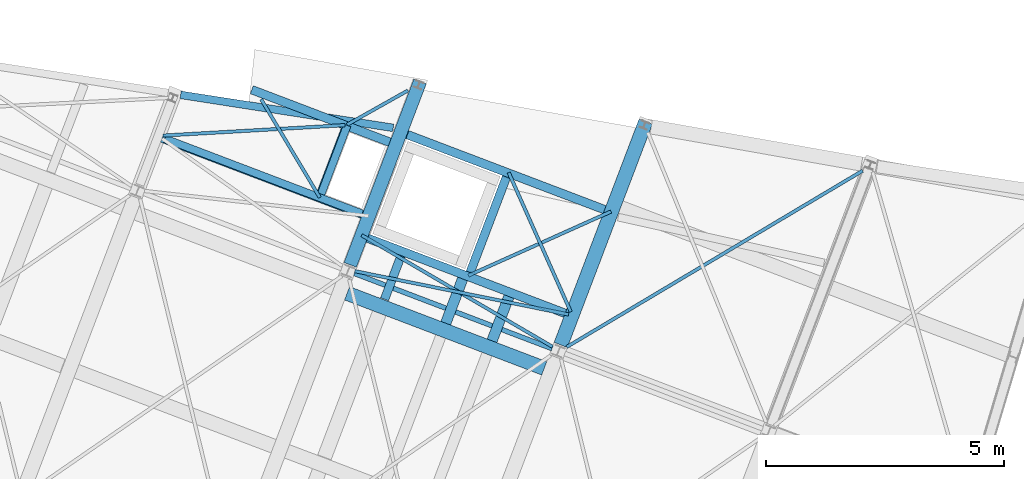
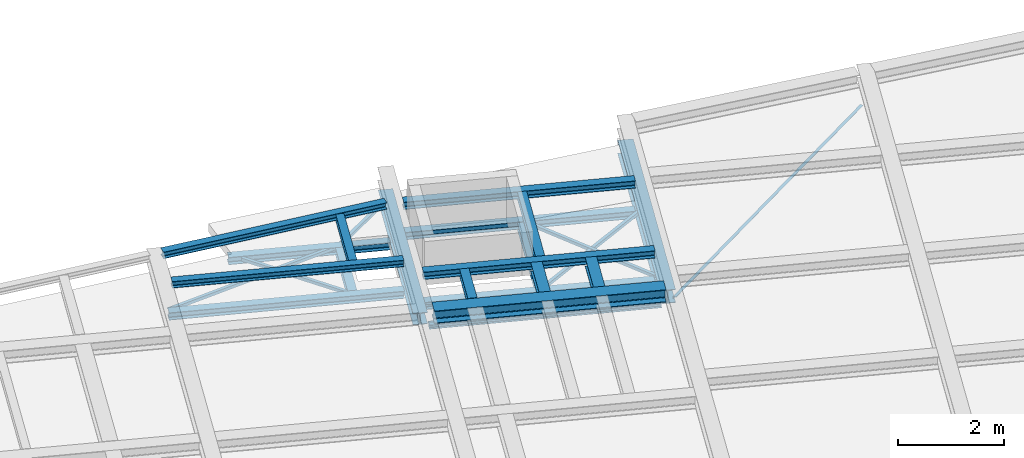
# One storey, part 17 of 21: 27 beams.
"""IFC2X3 building model written with IfcOpenShell, lengths in millimetres."""

from ifc_helpers import new_model, entity, si_unit, converted_unit, derived_unit, direction, frame, frame_2d, origin, place, context, subcontext, project, spatial, polyline, circle_curve, parameter, trimmed, segment, composite_curve, i_section, outline, extrude, material, type_object, element, save


model = new_model("IFC2X3")

# Units and contexts
model_context = context("Model", 3, precision=0.01, world=origin(), true_north=direction((6.123233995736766e-17, 1.0)))
body_context = subcontext(model_context, "Body", "Model", "MODEL_VIEW")
ifc_project = project(units=[si_unit("LENGTHUNIT", "METRE", prefix="MILLI"), converted_unit("PLANEANGLEUNIT", "DEGREE", entity("IfcPlaneAngleMeasure", 0.017453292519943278), si_unit("PLANEANGLEUNIT", "RADIAN"), dimensions=[0, 0, 0, 0, 0, 0, 0]), si_unit("AREAUNIT", "SQUARE_METRE"), derived_unit("THERMALTRANSMITTANCEUNIT", [(si_unit("MASSUNIT", "GRAM", prefix="KILO"), 1), (si_unit("THERMODYNAMICTEMPERATUREUNIT", "KELVIN"), -1), (si_unit("TIMEUNIT", "SECOND"), -3)])], contexts=[model_context])

# Site, building, storey
site_placement = place(None, frame((-72937.88054949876, 11621.45624098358, 0.0), z_axis=(0.0, 0.0, 1.0), x_axis=(0.9346418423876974, -0.35559053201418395, 0.0)))
site = spatial("IfcSite", under=ifc_project, at=site_placement, Name="Default", CompositionType="ELEMENT")
building_placement = place(site_placement, origin())
building = spatial("IfcBuilding", under=site, at=building_placement, CompositionType="ELEMENT")
storey_placement = place(building_placement, frame((0.0, 0.0, 4250.0)))
storey = spatial("IfcBuildingStorey", under=building, at=storey_placement, Name="01 eerste verdieping", CompositionType="ELEMENT", Elevation=4250.0)

# Beams
ifc_material_1 = material(Name="metaal_staal_generiek")
beam_type_1 = type_object("IfcBeamType", Name="DIE10", PredefinedType="BEAM")
beam_1_placement = place(storey_placement, frame((52840.0, 28760.0, -80.0)))
element("IfcBeam", 1, at=beam_1_placement, inside=storey, type_object=beam_type_1, material=ifc_material_1, Name="28.11_Stalen balk HEA", ObjectType="stalen balk HEA profiel", context=body_context, shape_type="SweptSolid", body=[
    extrude(i_section(OverallWidth=99.99999999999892, OverallDepth=95.99999999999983, WebThickness=4.999999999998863, FlangeThickness=8.000000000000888, FilletRadius=12.000000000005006, at=frame_2d((5.400124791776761e-13, -6.497913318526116e-12), x_axis=(0.0, 1.0))), frame((142.70000000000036, 0.0, -218.0), z_axis=(1.0, 0.0, 0.0), x_axis=(0.0, 0.0, -1.0)), (0.0, 0.0, 1.0), 4444.600000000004),
])
beam_type_2 = type_object("IfcBeamType", Name="DIE28", PredefinedType="BEAM")
beam_2_placement = place(storey_placement, frame((52840.0, 28760.0, -80.0), z_axis=(0.0, 0.0, 1.0), x_axis=(0.0, 1.0, 0.0)))
element("IfcBeam", 2, at=beam_2_placement, inside=storey, type_object=beam_type_2, material=ifc_material_1, Name="28.11_Stalen balk HEA", ObjectType="stalen balk HEA profiel", context=body_context, shape_type="SweptSolid", body=[
    extrude(i_section(OverallWidth=279.999999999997, OverallDepth=269.9999999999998, WebThickness=7.999999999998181, FlangeThickness=13.000000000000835, FilletRadius=24.000000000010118, at=frame_2d((2.7000623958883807e-13, 0.0), x_axis=(0.0, 1.0))), frame((137.72283929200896, 0.0, -135.0), z_axis=(1.0, 0.0, 0.0), x_axis=(0.0, 0.0, -1.0)), (0.0, 0.0, 1.0), 4119.099999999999),
])
beam_type_3 = type_object("IfcBeamType", Name="DIE32", PredefinedType="BEAM")
beam_3_placement = place(storey_placement, frame((57570.0, 28760.0, -80.0), z_axis=(0.0, 0.0, 1.0), x_axis=(0.0, 1.0, 0.0)))
element("IfcBeam", 3, at=beam_3_placement, inside=storey, type_object=beam_type_3, material=ifc_material_1, Name="28.11_Stalen balk HEA", ObjectType="stalen balk HEA profiel", context=body_context, shape_type="SweptSolid", body=[
    extrude(i_section(OverallWidth=300.0000000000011, OverallDepth=309.9999999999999, WebThickness=8.999999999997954, FlangeThickness=15.500000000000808, FilletRadius=26.999999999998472, at=frame_2d((0.0, 0.0), x_axis=(0.0, 1.0))), frame((137.73060540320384, 0.0, -155.0), z_axis=(1.0, 0.0, 0.0), x_axis=(0.0, 0.0, -1.0)), (0.0, 0.0, 1.0), 5014.2000000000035),
])
beam_type_4 = type_object("IfcBeamType", Name="L70x7", PredefinedType="NOTDEFINED")
beam_4_placement = place(storey_placement, frame((57570.0, 28760.0, -270.0), z_axis=(0.0, 0.0, 1.0), x_axis=(0.621005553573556, 0.783806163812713, 0.0)))
element("IfcBeam", 4, at=beam_4_placement, inside=storey, type_object=beam_type_4, material=ifc_material_1, Name="28.11_SF_WVB-L-Gelijkzijdig:L70x7", ObjectType="28.11_SF_WVB-L-Gelijkzijdig:L70x7", context=body_context, shape_type="SweptSolid", body=[
    extrude(outline(composite_curve([segment(polyline([(-26.444444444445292, -43.55555555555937), (-23.944444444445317, -43.55555555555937)]), True, "CONTINUOUS"), segment(trimmed(circle_curve(frame_2d((-23.944444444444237, -39.055555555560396), x_axis=(0.0, -1.0)), 4.499999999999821), [parameter(0.0)], [parameter(90.00000000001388)], True, "PARAMETER"), True, "CONTINUOUS"), segment(polyline([(-19.444444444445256, -39.055555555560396), (-19.444444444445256, 10.444444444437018)]), True, "CONTINUOUS"), segment(trimmed(circle_curve(frame_2d((-10.444444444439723, 10.444444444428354), x_axis=(-1.0, 0.0)), 9.000000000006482), [parameter(270.0000000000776)], [parameter(0.0)], True, "PARAMETER"), False, "CONTINUOUS"), segment(polyline([(-10.444444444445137, 19.444444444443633), (39.05555555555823, 19.444444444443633)]), True, "CONTINUOUS"), segment(trimmed(circle_curve(frame_2d((39.05555555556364, 23.944444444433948), x_axis=(0.0, -1.0)), 4.499999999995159), [parameter(0.0)], [parameter(90.00000000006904)], True, "PARAMETER"), True, "CONTINUOUS"), segment(polyline([(43.55555555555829, 23.944444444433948), (43.55555555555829, 26.44444444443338)]), True, "CONTINUOUS"), segment(polyline([(43.55555555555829, 26.44444444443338), (-26.444444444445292, 26.44444444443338)]), True, "CONTINUOUS"), segment(polyline([(-26.444444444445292, 26.444444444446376), (-26.444444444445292, -43.55555555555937)]), True, "CONTINUOUS")], self_intersect=False)), frame((191.48953318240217, -6.744444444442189, -6.7444444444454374), z_axis=(1.0, 0.0, 0.0), x_axis=(0.0, 0.0, -1.0)), (0.0, 0.0, 1.0), 7234.000000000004),
])
beam_5_placement = place(storey_placement, frame((52840.0, 32931.269201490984, -270.0), z_axis=(0.0, 0.0, 1.0), x_axis=(-0.6403917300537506, -0.7680484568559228, 0.0)))
element("IfcBeam", 5, at=beam_5_placement, inside=storey, type_object=beam_type_4, material=ifc_material_1, Name="28.11_SF_WVB-L-Gelijkzijdig:L70x7", ObjectType="28.11_SF_WVB-L-Gelijkzijdig:L70x7", context=body_context, shape_type="SweptSolid", body=[
    extrude(outline(composite_curve([segment(polyline([(-26.444444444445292, -43.555555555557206), (-23.944444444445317, -43.555555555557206)]), True, "CONTINUOUS"), segment(trimmed(circle_curve(frame_2d((-23.94444444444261, -39.05555555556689), x_axis=(0.0, -1.0)), 4.4999999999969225), [parameter(0.0)], [parameter(90.00000000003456)], True, "PARAMETER"), True, "CONTINUOUS"), segment(polyline([(-19.444444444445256, -39.05555555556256), (-19.444444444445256, 10.444444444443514)]), True, "CONTINUOUS"), segment(trimmed(circle_curve(frame_2d((-10.444444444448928, 10.444444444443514), x_axis=(-1.0, 0.0)), 8.99999999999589), [parameter(269.9999999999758)], [parameter(0.0)], True, "PARAMETER"), False, "CONTINUOUS"), segment(polyline([(-10.444444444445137, 19.444444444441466), (39.05555555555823, 19.444444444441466)]), True, "CONTINUOUS"), segment(trimmed(circle_curve(frame_2d((39.055555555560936, 23.944444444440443), x_axis=(0.0, -1.0)), 4.499999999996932), [parameter(0.0)], [parameter(90.00000000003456)], True, "PARAMETER"), True, "CONTINUOUS"), segment(polyline([(43.55555555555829, 23.944444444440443), (43.55555555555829, 26.44444444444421)]), True, "CONTINUOUS"), segment(polyline([(43.55555555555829, 26.44444444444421), (-26.444444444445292, 26.44444444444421)]), True, "CONTINUOUS"), segment(polyline([(-26.444444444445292, 26.44444444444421), (-26.444444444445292, -43.555555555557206)]), True, "CONTINUOUS")], self_intersect=False)), frame((247.45703811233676, -6.744444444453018, -6.7444444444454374), z_axis=(1.0, 0.0, 0.0), x_axis=(0.0, 0.0, -1.0)), (0.0, 0.0, 1.0), 1463.700000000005),
])
beam_6_placement = place(storey_placement, frame((57569.97198205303, 31879.96700318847, -270.0), z_axis=(0.0, 0.0, 1.0), x_axis=(-0.7071067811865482, -0.7071067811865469, 0.0)))
element("IfcBeam", 6, at=beam_6_placement, inside=storey, type_object=beam_type_4, material=ifc_material_1, Name="28.11_SF_WVB-L-Gelijkzijdig:L70x7", ObjectType="28.11_SF_WVB-L-Gelijkzijdig:L70x7", context=body_context, shape_type="SweptSolid", body=[
    extrude(outline(composite_curve([segment(polyline([(-26.444444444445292, -43.55555555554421), (-23.944444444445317, -43.55555555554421)]), True, "CONTINUOUS"), segment(trimmed(circle_curve(frame_2d((-23.94444444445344, -39.05555555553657), x_axis=(0.0, -1.0)), 4.5000000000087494), [parameter(0.0)], [parameter(89.99999999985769)], True, "PARAMETER"), True, "CONTINUOUS"), segment(polyline([(-19.444444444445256, -39.0555555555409), (-19.444444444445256, 10.444444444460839)]), True, "CONTINUOUS"), segment(trimmed(circle_curve(frame_2d((-10.444444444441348, 10.444444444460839), x_axis=(-1.0, 0.0)), 9.000000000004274), [parameter(270.00000000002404)], [parameter(0.0)], True, "PARAMETER"), False, "CONTINUOUS"), segment(polyline([(-10.444444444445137, 19.444444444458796), (39.05555555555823, 19.44444444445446)]), True, "CONTINUOUS"), segment(trimmed(circle_curve(frame_2d((39.05555555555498, 23.94444444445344), x_axis=(0.0, -1.0)), 4.500000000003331), [parameter(0.0)], [parameter(89.99999999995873)], True, "PARAMETER"), True, "CONTINUOUS"), segment(polyline([(43.55555555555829, 23.94444444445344), (43.55555555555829, 26.4444444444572)]), True, "CONTINUOUS"), segment(polyline([(43.55555555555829, 26.4444444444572), (-26.444444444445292, 26.4444444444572)]), True, "CONTINUOUS"), segment(polyline([(-26.444444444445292, 26.4444444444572), (-26.444444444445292, -43.55555555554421)]), True, "CONTINUOUS")], self_intersect=False)), frame((0.01792067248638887, -6.744444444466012, -6.7444444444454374), z_axis=(1.0, 0.0, 0.0), x_axis=(0.0, 0.0, -1.0)), (0.0, 0.0, 1.0), 3280.9000000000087),
])
beam_7_placement = place(storey_placement, frame((57569.99949449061, 29550.0, -270.0), z_axis=(0.0, 0.0, 1.0), x_axis=(-0.7054501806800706, 0.708759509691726, 0.0)))
element("IfcBeam", 7, at=beam_7_placement, inside=storey, type_object=beam_type_4, material=ifc_material_1, Name="28.11_SF_WVB-L-Gelijkzijdig:L70x7", ObjectType="28.11_SF_WVB-L-Gelijkzijdig:L70x7", context=body_context, shape_type="SweptSolid", body=[
    extrude(outline(composite_curve([segment(polyline([(-26.444444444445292, -43.555555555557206), (-23.944444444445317, -43.555555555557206)]), True, "CONTINUOUS"), segment(trimmed(circle_curve(frame_2d((-23.944444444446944, -39.05555555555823), x_axis=(0.0, -1.0)), 4.500000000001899), [parameter(0.0)], [parameter(89.99999999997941)], True, "PARAMETER"), True, "CONTINUOUS"), segment(polyline([(-19.444444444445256, -39.05555555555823), (-19.444444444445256, 10.444444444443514)]), True, "CONTINUOUS"), segment(trimmed(circle_curve(frame_2d((-10.444444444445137, 10.444444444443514), x_axis=(-1.0, 0.0)), 9.00000000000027), [parameter(269.9999999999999)], [parameter(0.0)], True, "PARAMETER"), False, "CONTINUOUS"), segment(polyline([(-10.444444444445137, 19.444444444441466), (39.05555555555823, 19.444444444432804)]), True, "CONTINUOUS"), segment(trimmed(circle_curve(frame_2d((39.05555555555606, 23.94444444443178), x_axis=(0.0, -1.0)), 4.500000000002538), [parameter(0.0)], [parameter(89.99999999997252)], True, "PARAMETER"), True, "CONTINUOUS"), segment(polyline([(43.55555555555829, 23.94444444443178), (43.55555555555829, 26.44444444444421)]), True, "CONTINUOUS"), segment(polyline([(43.55555555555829, 26.44444444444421), (-26.444444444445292, 26.44444444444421)]), True, "CONTINUOUS"), segment(polyline([(-26.444444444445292, 26.44444444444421), (-26.444444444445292, -43.555555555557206)]), True, "CONTINUOUS")], self_intersect=False)), frame((88.63971244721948, -6.744444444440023, -6.7444444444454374), z_axis=(1.0, 0.0, 0.0), x_axis=(0.0, 0.0, -1.0)), (0.0, 0.0, 1.0), 3200.0000000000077),
])
beam_8_placement = place(storey_placement, frame((57569.99949449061, 28759.971853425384, -270.0), z_axis=(0.0, 0.0, 1.0), x_axis=(-0.986336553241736, 0.16474284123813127, 0.0)))
element("IfcBeam", 8, at=beam_8_placement, inside=storey, type_object=beam_type_4, material=ifc_material_1, Name="28.11_SF_WVB-L-Gelijkzijdig:L70x7", ObjectType="28.11_SF_WVB-L-Gelijkzijdig:L70x7", context=body_context, shape_type="SweptSolid", body=[
    extrude(outline(composite_curve([segment(polyline([(-26.444444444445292, -43.55555555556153), (-23.944444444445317, -43.55555555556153)]), True, "CONTINUOUS"), segment(trimmed(circle_curve(frame_2d((-23.944444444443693, -39.05555555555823), x_axis=(0.0, -1.0)), 4.499999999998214), [parameter(0.0)], [parameter(90.00000000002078)], True, "PARAMETER"), True, "CONTINUOUS"), segment(polyline([(-19.444444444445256, -39.05555555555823), (-19.444444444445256, 10.444444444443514)]), True, "CONTINUOUS"), segment(trimmed(circle_curve(frame_2d((-10.444444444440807, 10.444444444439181), x_axis=(-1.0, 0.0)), 9.000000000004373), [parameter(270.0000000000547)], [parameter(0.0)], True, "PARAMETER"), False, "CONTINUOUS"), segment(polyline([(-10.444444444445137, 19.444444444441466), (39.05555555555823, 19.444444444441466)]), True, "CONTINUOUS"), segment(trimmed(circle_curve(frame_2d((39.055555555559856, 23.944444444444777), x_axis=(0.0, -1.0)), 4.499999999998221), [parameter(0.0)], [parameter(90.00000000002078)], True, "PARAMETER"), True, "CONTINUOUS"), segment(polyline([(43.55555555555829, 23.944444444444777), (43.55555555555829, 26.444444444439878)]), True, "CONTINUOUS"), segment(polyline([(43.55555555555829, 26.444444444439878), (-26.444444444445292, 26.444444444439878)]), True, "CONTINUOUS"), segment(polyline([(-26.444444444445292, 26.444444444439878), (-26.444444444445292, -43.55555555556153)]), True, "CONTINUOUS")], self_intersect=False)), frame((152.91168917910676, -6.744444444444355, -6.7444444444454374), z_axis=(1.0, 0.0, 0.0), x_axis=(0.0, 0.0, -1.0)), (0.0, 0.0, 1.0), 4642.600000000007),
])
beam_9_placement = place(storey_placement, frame((57569.99949449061, 29550.0, -270.0), z_axis=(0.0, 0.0, 1.0), x_axis=(-0.9866948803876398, -0.16258294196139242, 0.0)))
element("IfcBeam", 9, at=beam_9_placement, inside=storey, type_object=beam_type_4, material=ifc_material_1, Name="28.11_SF_WVB-L-Gelijkzijdig:L70x7", ObjectType="28.11_SF_WVB-L-Gelijkzijdig:L70x7", context=body_context, shape_type="SweptSolid", body=[
    extrude(outline(composite_curve([segment(polyline([(-26.444444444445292, -43.555555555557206), (-23.944444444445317, -43.555555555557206)]), True, "CONTINUOUS"), segment(trimmed(circle_curve(frame_2d((-23.94444444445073, -39.05555555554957), x_axis=(0.0, -1.0)), 4.500000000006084), [parameter(0.0)], [parameter(89.99999999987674)], True, "PARAMETER"), True, "CONTINUOUS"), segment(polyline([(-19.444444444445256, -39.05555555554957), (-19.444444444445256, 10.444444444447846)]), True, "CONTINUOUS"), segment(trimmed(circle_curve(frame_2d((-10.444444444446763, 10.444444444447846), x_axis=(-1.0, 0.0)), 8.999999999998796), [parameter(269.9999999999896)], [parameter(0.0)], True, "PARAMETER"), False, "CONTINUOUS"), segment(polyline([(-10.444444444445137, 19.44444444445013), (39.05555555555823, 19.4444444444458)]), True, "CONTINUOUS"), segment(trimmed(circle_curve(frame_2d((39.0555555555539, 23.94444444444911), x_axis=(0.0, -1.0)), 4.500000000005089), [parameter(0.0)], [parameter(89.99999999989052)], True, "PARAMETER"), True, "CONTINUOUS"), segment(polyline([(43.55555555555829, 23.944444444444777), (43.55555555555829, 26.44444444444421)]), True, "CONTINUOUS"), segment(polyline([(43.55555555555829, 26.444444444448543), (-26.444444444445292, 26.44444444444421)]), True, "CONTINUOUS"), segment(polyline([(-26.444444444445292, 26.44444444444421), (-26.444444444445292, -43.555555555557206)]), True, "CONTINUOUS")], self_intersect=False)), frame((72.84094772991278, -6.744444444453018, -6.7444444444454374), z_axis=(1.0, 0.0, 0.0), x_axis=(0.0, 0.0, -1.0)), (0.0, 0.0, 1.0), 4580.800000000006),
])
beam_type_5 = type_object("IfcBeamType", Name="L70x7", PredefinedType="JOIST")
beam_10_placement = place(storey_placement, frame((51730.0, 29980.0, -270.0), z_axis=(0.0, 0.0, 1.0), x_axis=(-0.7844753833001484, 0.6201599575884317, 0.0)))
element("IfcBeam", 10, at=beam_10_placement, inside=storey, type_object=beam_type_5, material=ifc_material_1, Name="28.11_SF_WVB-L-Gelijkzijdig:L70x7", ObjectType="28.11_SF_WVB-L-Gelijkzijdig:L70x7", context=body_context, shape_type="SweptSolid", body=[
    extrude(outline(composite_curve([segment(polyline([(-26.444444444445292, -43.55555555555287), (-23.944444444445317, -43.55555555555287)]), True, "CONTINUOUS"), segment(trimmed(circle_curve(frame_2d((-23.94444444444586, -39.055555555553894), x_axis=(0.0, -1.0)), 4.500000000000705), [parameter(0.0)], [parameter(89.9999999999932)], True, "PARAMETER"), True, "CONTINUOUS"), segment(polyline([(-19.444444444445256, -39.055555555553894), (-19.444444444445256, 10.444444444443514)]), True, "CONTINUOUS"), segment(trimmed(circle_curve(frame_2d((-10.444444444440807, 10.444444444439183), x_axis=(-1.0, 0.0)), 9.00000000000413), [parameter(270.0000000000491)], [parameter(0.0)], True, "PARAMETER"), False, "CONTINUOUS"), segment(polyline([(-10.444444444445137, 19.444444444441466), (39.05555555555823, 19.444444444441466)]), True, "CONTINUOUS"), segment(trimmed(circle_curve(frame_2d((39.05555555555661, 23.944444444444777), x_axis=(0.0, -1.0)), 4.500000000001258), [parameter(0.0)], [parameter(89.99999999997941)], True, "PARAMETER"), True, "CONTINUOUS"), segment(polyline([(43.55555555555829, 23.944444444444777), (43.55555555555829, 26.44444444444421)]), True, "CONTINUOUS"), segment(polyline([(43.55555555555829, 26.44444444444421), (-26.444444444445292, 26.44444444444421)]), True, "CONTINUOUS"), segment(polyline([(-26.444444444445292, 26.44444444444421), (-26.444444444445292, -43.55555555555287)]), True, "CONTINUOUS")], self_intersect=False)), frame((0.01464040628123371, -6.744444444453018, -6.7444444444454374), z_axis=(1.0, 0.0, 0.0), x_axis=(0.0, 0.0, -1.0)), (0.0, 0.0, 1.0), 2404.2000000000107),
])
beam_11_placement = place(storey_placement, frame((51730.0, 31600.0, -270.0), z_axis=(0.0, 0.0, 1.0), x_axis=(-0.9127687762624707, -0.408476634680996, 0.0)))
element("IfcBeam", 11, at=beam_11_placement, inside=storey, type_object=beam_type_5, material=ifc_material_1, Name="28.11_SF_WVB-L-Gelijkzijdig:L70x7", ObjectType="28.11_SF_WVB-L-Gelijkzijdig:L70x7", context=body_context, shape_type="SweptSolid", body=[
    extrude(outline(composite_curve([segment(polyline([(-26.444444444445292, -43.555555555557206), (-23.944444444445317, -43.555555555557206)]), True, "CONTINUOUS"), segment(trimmed(circle_curve(frame_2d((-23.944444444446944, -39.05555555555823), x_axis=(0.0, -1.0)), 4.50000000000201), [parameter(0.0)], [parameter(89.99999999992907)], True, "PARAMETER"), True, "CONTINUOUS"), segment(polyline([(-19.444444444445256, -39.05555555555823), (-19.444444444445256, 10.444444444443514)]), True, "CONTINUOUS"), segment(trimmed(circle_curve(frame_2d((-10.444444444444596, 10.444444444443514), x_axis=(-1.0, 0.0)), 9.000000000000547), [parameter(270.00000000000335)], [parameter(0.0)], True, "PARAMETER"), False, "CONTINUOUS"), segment(polyline([(-10.444444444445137, 19.44444444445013), (39.05555555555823, 19.444444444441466)]), True, "CONTINUOUS"), segment(trimmed(circle_curve(frame_2d((39.05555555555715, 23.94444444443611), x_axis=(0.0, -1.0)), 4.500000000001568), [parameter(0.0)], [parameter(89.99999999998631)], True, "PARAMETER"), True, "CONTINUOUS"), segment(polyline([(43.55555555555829, 23.94444444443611), (43.55555555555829, 26.444444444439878)]), True, "CONTINUOUS"), segment(polyline([(43.55555555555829, 26.444444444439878), (-26.444444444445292, 26.444444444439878)]), True, "CONTINUOUS"), segment(polyline([(-26.444444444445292, 26.444444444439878), (-26.444444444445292, -43.555555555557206)]), True, "CONTINUOUS")], self_intersect=False)), frame((34.877559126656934, -6.744444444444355, -6.7444444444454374), z_axis=(1.0, 0.0, 0.0), x_axis=(0.0, 0.0, -1.0)), (0.0, 0.0, 1.0), 3825.700000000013),
])
ifc_material_2 = material(Name="metaal_staal_profiel_s235")
beam_type_6 = type_object("IfcBeamType", Name="HEA300", PredefinedType="BEAM")
beam_12_placement = place(storey_placement, frame((57570.0, 28315.000128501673, 450.0), z_axis=(0.0, 0.0, 1.0), x_axis=(-1.0, 0.0, 0.0)))
element("IfcBeam", 12, at=beam_12_placement, inside=storey, type_object=beam_type_6, material=ifc_material_2, Name="28.11_Stalen balk HEA", ObjectType="stalen balk HEA profiel", context=body_context, shape_type="SweptSolid", body=[
    extrude(i_section(OverallWidth=299.99999999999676, OverallDepth=290.0000000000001, WebThickness=8.500000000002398, FlangeThickness=14.000000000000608, FilletRadius=26.999999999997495, at=frame_2d((0.0, -2.1600499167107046e-12), x_axis=(0.0, 1.0))), frame((150.0, 0.0, -145.0), z_axis=(1.0, 0.0, 0.0), x_axis=(0.0, 0.0, -1.0)), (0.0, 0.0, 1.0), 4429.999999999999),
])
beam_type_7 = type_object("IfcBeamType", Name="HEA180", PredefinedType="BEAM")
for number, where, z_axis, x_axis, name in (
    (13, (57570.0, 29550.0, 450.0), (0.0, 0.0, 1.0), (-1.0, 0.0, 0.0), "28.11_Stalen balk HEA"),
    (14, (57570.0, 31880.0, 450.0), (0.0, 0.0, 1.0), (-1.0, 0.0, 0.0), "28.11_Stalen balk HEA"),
):
    element("IfcBeam", number, at=place(storey_placement, frame(where, z_axis=z_axis, x_axis=x_axis)), inside=storey, type_object=beam_type_7, material=ifc_material_2, Name=name, ObjectType="stalen balk HEA profiel", context=body_context, shape_type="SweptSolid", body=[
        extrude(i_section(OverallWidth=179.99999999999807, OverallDepth=170.99999999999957, WebThickness=5.999999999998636, FlangeThickness=9.500000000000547, FilletRadius=15.000000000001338, at=frame_2d((2.7000623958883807e-13, 2.1671553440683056e-12), x_axis=(0.0, 1.0))), frame((150.0, 0.0, -85.50000000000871), z_axis=(1.0, 0.0, 0.0), x_axis=(0.0, 0.0, -1.0)), (0.0, 0.0, 1.0), 4429.999999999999),
    ])
beam_13_placement = place(storey_placement, frame((57569.99949449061, 31880.0, -250.0), z_axis=(0.0, 0.0, 1.0), x_axis=(-1.0, 0.0, 0.0)))
element("IfcBeam", 15, at=beam_13_placement, inside=storey, type_object=beam_type_7, material=ifc_material_1, Name="28.11_Stalen balk HEA", ObjectType="stalen balk HEA profiel", context=body_context, shape_type="SweptSolid", body=[
    extrude(i_section(OverallWidth=179.99999999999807, OverallDepth=170.99999999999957, WebThickness=5.999999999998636, FlangeThickness=9.500000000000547, FilletRadius=15.000000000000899, at=frame_2d((8.100187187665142e-13, -2.1671553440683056e-12), x_axis=(0.0, 1.0))), frame((149.99949449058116, 0.0, -85.50000000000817), z_axis=(1.0, 0.0, 0.0), x_axis=(0.0, 0.0, -1.0)), (0.0, 0.0, 1.0), 4440.000000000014),
])
beam_14_placement = place(storey_placement, frame((57569.99949449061, 29550.0, -250.0), z_axis=(0.0, 0.0, 1.0), x_axis=(-1.0, 0.0, 0.0)))
element("IfcBeam", 16, at=beam_14_placement, inside=storey, type_object=beam_type_7, material=ifc_material_1, Name="28.11_Stalen balk HEA", ObjectType="stalen balk HEA profiel", context=body_context, shape_type="SweptSolid", body=[
    extrude(i_section(OverallWidth=179.99999999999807, OverallDepth=170.99999999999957, WebThickness=5.999999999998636, FlangeThickness=9.500000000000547, FilletRadius=15.000000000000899, at=frame_2d((8.100187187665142e-13, -2.1671553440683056e-12), x_axis=(0.0, 1.0))), frame((150.00079537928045, 0.0, -85.50000000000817), z_axis=(1.0, 0.0, 0.0), x_axis=(0.0, 0.0, -1.0)), (0.0, 0.0, 1.0), 4439.998699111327),
])
beam_15_placement = place(storey_placement, frame((55250.0, 29550.0, -250.0), z_axis=(0.0, 0.0, 1.0), x_axis=(0.0, 1.0, 0.0)))
element("IfcBeam", 17, at=beam_15_placement, inside=storey, type_object=beam_type_7, material=ifc_material_1, Name="28.11_Stalen balk HEA", ObjectType="stalen balk HEA profiel", context=body_context, shape_type="SweptSolid", body=[
    extrude(i_section(OverallWidth=180.0000000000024, OverallDepth=171.0000000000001, WebThickness=5.999999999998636, FlangeThickness=9.500000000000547, FilletRadius=14.999999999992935, at=frame_2d((1.0800249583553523e-12, -4.334310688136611e-12), x_axis=(0.0, 1.0))), frame((102.70000000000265, 0.0, -85.50000000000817), z_axis=(1.0, 0.0, 0.0), x_axis=(0.0, 0.0, -1.0)), (0.0, 0.0, 1.0), 2124.600000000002),
])
beam_16_placement = place(storey_placement, frame((49567.15448146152, 31600.0, -250.0)))
element("IfcBeam", 18, at=beam_16_placement, inside=storey, type_object=beam_type_7, material=ifc_material_1, Name="28.11_Stalen balk HEA", ObjectType="stalen balk HEA profiel", context=body_context, shape_type="SweptSolid", body=[
    extrude(i_section(OverallWidth=180.0000000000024, OverallDepth=171.0000000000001, WebThickness=5.999999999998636, FlangeThickness=9.500000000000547, FilletRadius=15.000000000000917, at=frame_2d((1.0800249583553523e-12, 2.1671553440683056e-12), x_axis=(0.0, 1.0))), frame((32.2225065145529, 0.0, -85.50000000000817), z_axis=(1.0, 0.0, 0.0), x_axis=(0.0, 0.0, -1.0)), (0.0, 0.0, 1.0), 3100.600505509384),
])
beam_17_placement = place(storey_placement, frame((48110.0, 29980.0, -250.0)))
element("IfcBeam", 19, at=beam_17_placement, inside=storey, type_object=beam_type_7, material=ifc_material_1, Name="28.11_Stalen balk HEA", ObjectType="stalen balk HEA profiel", context=body_context, shape_type="SweptSolid", body=[
    extrude(i_section(OverallWidth=179.99999999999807, OverallDepth=171.0000000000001, WebThickness=5.999999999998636, FlangeThickness=9.500000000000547, FilletRadius=15.000000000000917, at=frame_2d((1.0800249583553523e-12, -2.1671553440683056e-12), x_axis=(0.0, 1.0))), frame((90.0497472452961, 0.0, -85.50000000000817), z_axis=(1.0, 0.0, 0.0), x_axis=(0.0, 0.0, -1.0)), (0.0, 0.0, 1.0), 4499.900505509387),
])
beam_18_placement = place(storey_placement, frame((51730.0, 29980.0, -250.0), z_axis=(0.0, 0.0, 1.0), x_axis=(0.0, 1.0, 0.0)))
element("IfcBeam", 20, at=beam_18_placement, inside=storey, type_object=beam_type_7, material=ifc_material_1, Name="28.11_Stalen balk HEA", ObjectType="stalen balk HEA profiel", context=body_context, shape_type="SweptSolid", body=[
    extrude(i_section(OverallWidth=180.0000000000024, OverallDepth=170.99999999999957, WebThickness=5.999999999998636, FlangeThickness=9.500000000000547, FilletRadius=14.999999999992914, at=frame_2d((8.100187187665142e-13, 1.2995826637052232e-11), x_axis=(0.0, 1.0))), frame((90.0, 0.0, -85.50000000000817), z_axis=(1.0, 0.0, 0.0), x_axis=(0.0, 0.0, -1.0)), (0.0, 0.0, 1.0), 1440.0000000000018),
])
beam_19_placement = place(storey_placement, frame((55250.0, 29550.0, 450.0), z_axis=(0.0, 0.0, 1.0), x_axis=(0.0, 1.0, 0.0)))
element("IfcBeam", 21, at=beam_19_placement, inside=storey, type_object=beam_type_7, material=ifc_material_2, Name="28.11_Stalen balk HEA", ObjectType="stalen balk HEA profiel", context=body_context, shape_type="SweptSolid", body=[
    extrude(i_section(OverallWidth=180.0000000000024, OverallDepth=171.0000000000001, WebThickness=5.999999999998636, FlangeThickness=9.500000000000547, FilletRadius=14.999999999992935, at=frame_2d((1.0800249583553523e-12, -4.334310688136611e-12), x_axis=(0.0, 1.0))), frame((90.0, 0.0, -85.50000000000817), z_axis=(1.0, 0.0, 0.0), x_axis=(0.0, 0.0, -1.0)), (0.0, 0.0, 1.0), 2150.000000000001),
])
beam_20_placement = place(storey_placement, frame((53770.0, 28315.00025700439, 450.0), z_axis=(0.0, 0.0, 1.0), x_axis=(0.0, 1.0, 0.0)))
element("IfcBeam", 22, at=beam_20_placement, inside=storey, type_object=beam_type_7, material=ifc_material_2, Name="28.11_Stalen balk HEA", ObjectType="stalen balk HEA profiel", context=body_context, shape_type="SweptSolid", body=[
    extrude(i_section(OverallWidth=180.0000000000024, OverallDepth=171.0000000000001, WebThickness=5.999999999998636, FlangeThickness=9.500000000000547, FilletRadius=14.999999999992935, at=frame_2d((1.0800249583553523e-12, 1.2995826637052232e-11), x_axis=(0.0, 1.0))), frame((162.74987149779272, 0.0, -85.50000000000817), z_axis=(1.0, 0.0, 0.0), x_axis=(0.0, 0.0, -1.0)), (0.0, 0.0, 1.0), 982.2000000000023),
])
beam_type_8 = type_object("IfcBeamType", Name="HEA160", PredefinedType="BEAM")
beam_21_placement = place(storey_placement, frame((52840.0, 29990.0, 450.0), z_axis=(0.0, 0.0, 1.0), x_axis=(-1.0, 0.0, 0.0)))
element("IfcBeam", 23, at=beam_21_placement, inside=storey, type_object=beam_type_8, material=ifc_material_2, Name="28.11_Stalen balk HEA", ObjectType="stalen balk HEA profiel", context=body_context, shape_type="SweptSolid", body=[
    extrude(i_section(OverallWidth=159.99999999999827, OverallDepth=152.00000000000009, WebThickness=5.999999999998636, FlangeThickness=9.00000000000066, FilletRadius=15.000000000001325, at=frame_2d((5.400124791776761e-13, 2.1671553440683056e-12), x_axis=(0.0, 1.0))), frame((150.0, 0.0, -76.0), z_axis=(1.0, 0.0, 0.0), x_axis=(0.0, 0.0, -1.0)), (0.0, 0.0, 1.0), 4429.999999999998),
])
beam_22_placement = place(storey_placement, frame((52840.0, 31945.37007889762, 450.0), z_axis=(0.0, 0.0, 1.0), x_axis=(-0.9781586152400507, -0.20785986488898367, 0.0)))
element("IfcBeam", 24, at=beam_22_placement, inside=storey, type_object=beam_type_8, material=ifc_material_2, Name="28.11_Stalen balk HEA", ObjectType="stalen balk HEA profiel", context=body_context, shape_type="SweptSolid", body=[
    extrude(i_section(OverallWidth=159.9999999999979, OverallDepth=152.00000000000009, WebThickness=5.999999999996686, FlangeThickness=9.00000000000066, FilletRadius=15.000000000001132, at=frame_2d((2.7000623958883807e-13, 8.469669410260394e-12), x_axis=(0.0, 1.0))), frame((183.10828093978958, 0.0, -76.0), z_axis=(1.0, 0.0, 0.0), x_axis=(0.0, 0.0, -1.0)), (0.0, 0.0, 1.0), 4519.800000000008),
])
beam_23_placement = place(storey_placement, frame((51740.0, 29990.0, 450.0), z_axis=(0.0, 0.0, 1.0), x_axis=(0.0, 1.0, 0.0)))
element("IfcBeam", 25, at=beam_23_placement, inside=storey, type_object=beam_type_8, material=ifc_material_2, Name="28.11_Stalen balk HEA", ObjectType="stalen balk HEA profiel", context=body_context, shape_type="SweptSolid", body=[
    extrude(i_section(OverallWidth=159.99999999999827, OverallDepth=152.00000000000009, WebThickness=5.999999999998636, FlangeThickness=9.000000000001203, FilletRadius=14.999999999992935, at=frame_2d((5.400124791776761e-13, 0.0), x_axis=(0.0, 1.0))), frame((80.02184620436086, 0.0, -76.0), z_axis=(1.0, 0.0, 0.0), x_axis=(0.0, 0.0, -1.0)), (0.0, 0.0, 1.0), 1542.8000000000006),
])
beam_type_9 = type_object("IfcBeamType", Name="HEA220", PredefinedType="BEAM")
beam_24_placement = place(storey_placement, frame((55149.83908333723, 28315.000128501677, 450.0), z_axis=(0.0, 0.0, 1.0), x_axis=(0.0, 1.0, 0.0)))
element("IfcBeam", 26, at=beam_24_placement, inside=storey, type_object=beam_type_9, material=ifc_material_2, Name="28.11_Stalen balk HEA", ObjectType="stalen balk HEA profiel", context=body_context, shape_type="SweptSolid", body=[
    extrude(i_section(OverallWidth=220.00000000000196, OverallDepth=209.9999999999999, WebThickness=6.999999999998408, FlangeThickness=11.000000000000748, FilletRadius=17.999999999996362, at=frame_2d((1.0871303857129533e-12, 8.668621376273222e-12), x_axis=(0.0, 1.0))), frame((150.04993574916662, 0.0, -105.0), z_axis=(1.0, 0.0, 0.0), x_axis=(0.0, 0.0, -1.0)), (0.0, 0.0, 1.0), 994.9000000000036),
])
beam_25_placement = place(storey_placement, frame((56189.83908333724, 28315.000128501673, 450.0), z_axis=(0.0, 0.0, 1.0), x_axis=(0.0, 1.0, 0.0)))
element("IfcBeam", 27, at=beam_25_placement, inside=storey, type_object=beam_type_9, material=ifc_material_2, Name="28.11_Stalen balk HEA", ObjectType="stalen balk HEA profiel", context=body_context, shape_type="SweptSolid", body=[
    extrude(i_section(OverallWidth=220.00000000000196, OverallDepth=209.9999999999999, WebThickness=6.999999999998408, FlangeThickness=11.000000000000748, FilletRadius=17.999999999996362, at=frame_2d((1.0871303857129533e-12, 8.668621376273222e-12), x_axis=(0.0, 1.0))), frame((150.04993574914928, 0.0, -105.0), z_axis=(1.0, 0.0, 0.0), x_axis=(0.0, 0.0, -1.0)), (0.0, 0.0, 1.0), 994.9000000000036),
])

save(model, "model.ifc")
